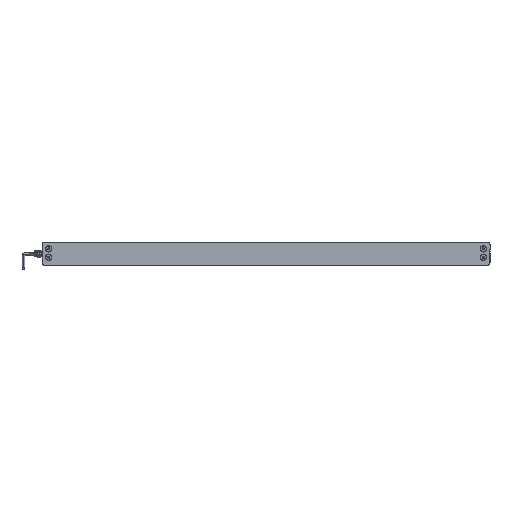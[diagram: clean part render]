
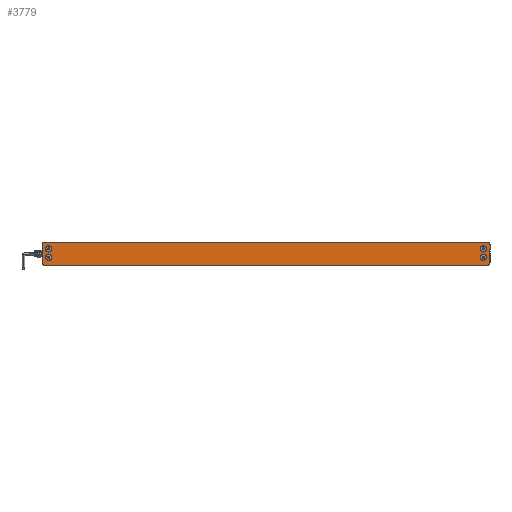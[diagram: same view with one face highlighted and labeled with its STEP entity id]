
A CAD part, left-side view. The second image highlights one B-rep face of the part: STEP entity #3779.
In plain terms, the highlighted planar face has unit normal (-1, 0, 0) as drawn and (0, 0, -1) by its records, which use the part's own axes.
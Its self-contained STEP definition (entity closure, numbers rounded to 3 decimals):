
#75 = ORIENTED_EDGE ( 'NONE', *, *, #13103, .F. ) ;
#145 = VERTEX_POINT ( 'NONE', #13456 ) ;
#169 = VERTEX_POINT ( 'NONE', #5914 ) ;
#189 = EDGE_CURVE ( 'NONE', #145, #5842, #14935, .T. ) ;
#563 = DIRECTION ( 'NONE',  ( -1., 0., 0. ) ) ;
#748 = CARTESIAN_POINT ( 'NONE',  ( -381.3, -6.3, 0. ) ) ;
#845 = EDGE_LOOP ( 'NONE', ( #10173, #9090, #14855, #75, #4623, #14987, #15805, #2340 ) ) ;
#932 = ORIENTED_EDGE ( 'NONE', *, *, #4648, .F. ) ;
#1097 = ORIENTED_EDGE ( 'NONE', *, *, #8424, .F. ) ;
#1159 = CARTESIAN_POINT ( 'NONE',  ( 389., 20., 0. ) ) ;
#1386 = DIRECTION ( 'NONE',  ( 0., 0., 1. ) ) ;
#1467 = CARTESIAN_POINT ( 'NONE',  ( 389., 16., 0. ) ) ;
#1659 = EDGE_LOOP ( 'NONE', ( #9781, #2215 ) ) ;
#1793 = ORIENTED_EDGE ( 'NONE', *, *, #6179, .F. ) ;
#1875 = CARTESIAN_POINT ( 'NONE',  ( -389., 16., 0. ) ) ;
#1910 = CIRCLE ( 'NONE', #6851, 5.6 ) ;
#1970 = VERTEX_POINT ( 'NONE', #9609 ) ;
#2056 = VERTEX_POINT ( 'NONE', #6857 ) ;
#2066 = CARTESIAN_POINT ( 'NONE',  ( 381.3, 8.5, 0. ) ) ;
#2137 = CARTESIAN_POINT ( 'NONE',  ( -386.9, 8.5, 0. ) ) ;
#2165 = DIRECTION ( 'NONE',  ( -1., 0., 0. ) ) ;
#2215 = ORIENTED_EDGE ( 'NONE', *, *, #15588, .F. ) ;
#2241 = LINE ( 'NONE', #10073, #16123 ) ;
#2285 = CARTESIAN_POINT ( 'NONE',  ( -389., 20., 0. ) ) ;
#2340 = ORIENTED_EDGE ( 'NONE', *, *, #12078, .F. ) ;
#2644 = EDGE_CURVE ( 'NONE', #169, #9333, #10695, .T. ) ;
#2745 = AXIS2_PLACEMENT_3D ( 'NONE', #16003, #15919, #9662 ) ;
#2781 = VERTEX_POINT ( 'NONE', #15353 ) ;
#2889 = AXIS2_PLACEMENT_3D ( 'NONE', #16267, #4248, #8204 ) ;
#3165 = CIRCLE ( 'NONE', #12550, 4. ) ;
#3711 = CIRCLE ( 'NONE', #2889, 4. ) ;
#3779 = ADVANCED_FACE ( 'NONE', ( #11961, #13099, #9102, #6511, #13019 ), #15619, .T. ) ;
#3870 = CIRCLE ( 'NONE', #5803, 5.6 ) ;
#4206 = EDGE_CURVE ( 'NONE', #16024, #11602, #3165, .T. ) ;
#4248 = DIRECTION ( 'NONE',  ( 0., 0., 1. ) ) ;
#4466 = CARTESIAN_POINT ( 'NONE',  ( -393., -16., 0. ) ) ;
#4468 = DIRECTION ( 'NONE',  ( 0., 0., -1. ) ) ;
#4623 = ORIENTED_EDGE ( 'NONE', *, *, #14043, .F. ) ;
#4648 = EDGE_CURVE ( 'NONE', #16746, #6600, #3870, .T. ) ;
#4968 = VERTEX_POINT ( 'NONE', #2137 ) ;
#4999 = CARTESIAN_POINT ( 'NONE',  ( 393., 16., 0. ) ) ;
#5143 = DIRECTION ( 'NONE',  ( 0., 0., -1. ) ) ;
#5191 = CARTESIAN_POINT ( 'NONE',  ( -375.7, 8.5, 0. ) ) ;
#5286 = CARTESIAN_POINT ( 'NONE',  ( -375.7, -6.3, 0. ) ) ;
#5364 = VECTOR ( 'NONE', #6420, 1000. ) ;
#5418 = EDGE_LOOP ( 'NONE', ( #1793, #932 ) ) ;
#5798 = EDGE_CURVE ( 'NONE', #4968, #7417, #8958, .T. ) ;
#5803 = AXIS2_PLACEMENT_3D ( 'NONE', #7471, #12604, #7312 ) ;
#5842 = VERTEX_POINT ( 'NONE', #7328 ) ;
#5914 = CARTESIAN_POINT ( 'NONE',  ( -386.9, -6.3, 0. ) ) ;
#6179 = EDGE_CURVE ( 'NONE', #6600, #16746, #15141, .T. ) ;
#6420 = DIRECTION ( 'NONE',  ( 0., 1., 0. ) ) ;
#6437 = LINE ( 'NONE', #7726, #9065 ) ;
#6511 = FACE_BOUND ( 'NONE', #1659, .T. ) ;
#6600 = VERTEX_POINT ( 'NONE', #7758 ) ;
#6778 = EDGE_CURVE ( 'NONE', #5842, #15479, #6437, .T. ) ;
#6851 = AXIS2_PLACEMENT_3D ( 'NONE', #8308, #14735, #13704 ) ;
#6857 = CARTESIAN_POINT ( 'NONE',  ( 393., -16., 0. ) ) ;
#6881 = ORIENTED_EDGE ( 'NONE', *, *, #14007, .F. ) ;
#7006 = AXIS2_PLACEMENT_3D ( 'NONE', #8373, #16190, #13685 ) ;
#7309 = DIRECTION ( 'NONE',  ( -1., 0., 0. ) ) ;
#7312 = DIRECTION ( 'NONE',  ( -1., 0., 0. ) ) ;
#7328 = CARTESIAN_POINT ( 'NONE',  ( -393., 16., 0. ) ) ;
#7417 = VERTEX_POINT ( 'NONE', #5191 ) ;
#7454 = EDGE_CURVE ( 'NONE', #9005, #2056, #11856, .T. ) ;
#7471 = CARTESIAN_POINT ( 'NONE',  ( 381.3, 8.5, 0. ) ) ;
#7726 = CARTESIAN_POINT ( 'NONE',  ( -393., -16., 0. ) ) ;
#7758 = CARTESIAN_POINT ( 'NONE',  ( 375.7, 8.5, 0. ) ) ;
#7960 = EDGE_CURVE ( 'NONE', #2781, #1970, #1910, .T. ) ;
#8204 = DIRECTION ( 'NONE',  ( -1., 0., 0. ) ) ;
#8265 = EDGE_LOOP ( 'NONE', ( #1097, #13305 ) ) ;
#8308 = CARTESIAN_POINT ( 'NONE',  ( 381.3, -6.3, 0. ) ) ;
#8373 = CARTESIAN_POINT ( 'NONE',  ( -381.3, 8.5, 0. ) ) ;
#8381 = AXIS2_PLACEMENT_3D ( 'NONE', #748, #11289, #15275 ) ;
#8424 = EDGE_CURVE ( 'NONE', #1970, #2781, #12410, .T. ) ;
#8958 = CIRCLE ( 'NONE', #16991, 5.6 ) ;
#9005 = VERTEX_POINT ( 'NONE', #13175 ) ;
#9065 = VECTOR ( 'NONE', #13027, 1000. ) ;
#9090 = ORIENTED_EDGE ( 'NONE', *, *, #13484, .F. ) ;
#9102 = FACE_BOUND ( 'NONE', #12325, .T. ) ;
#9333 = VERTEX_POINT ( 'NONE', #5286 ) ;
#9442 = LINE ( 'NONE', #11705, #5364 ) ;
#9609 = CARTESIAN_POINT ( 'NONE',  ( 375.7, -6.3, 0. ) ) ;
#9662 = DIRECTION ( 'NONE',  ( 1., 0., 0. ) ) ;
#9692 = DIRECTION ( 'NONE',  ( -1., 0., 0. ) ) ;
#9781 = ORIENTED_EDGE ( 'NONE', *, *, #2644, .F. ) ;
#9877 = AXIS2_PLACEMENT_3D ( 'NONE', #2066, #4468, #7309 ) ;
#10073 = CARTESIAN_POINT ( 'NONE',  ( -389., -20., 0. ) ) ;
#10173 = ORIENTED_EDGE ( 'NONE', *, *, #4206, .F. ) ;
#10287 = DIRECTION ( 'NONE',  ( -1., 0., 0. ) ) ;
#10695 = CIRCLE ( 'NONE', #14047, 5.6 ) ;
#10723 = AXIS2_PLACEMENT_3D ( 'NONE', #12393, #10918, #9692 ) ;
#10763 = AXIS2_PLACEMENT_3D ( 'NONE', #1875, #16386, #563 ) ;
#10918 = DIRECTION ( 'NONE',  ( 0., 0., -1. ) ) ;
#11044 = CARTESIAN_POINT ( 'NONE',  ( -381.3, 8.5, 0. ) ) ;
#11164 = CIRCLE ( 'NONE', #7006, 5.6 ) ;
#11289 = DIRECTION ( 'NONE',  ( 0., 0., -1. ) ) ;
#11602 = VERTEX_POINT ( 'NONE', #1159 ) ;
#11705 = CARTESIAN_POINT ( 'NONE',  ( 393., -16., 0. ) ) ;
#11856 = CIRCLE ( 'NONE', #2745, 4. ) ;
#11961 = FACE_BOUND ( 'NONE', #5418, .T. ) ;
#12078 = EDGE_CURVE ( 'NONE', #11602, #145, #12831, .T. ) ;
#12325 = EDGE_LOOP ( 'NONE', ( #12459, #6881 ) ) ;
#12393 = CARTESIAN_POINT ( 'NONE',  ( 381.3, -6.3, 0. ) ) ;
#12410 = CIRCLE ( 'NONE', #10723, 5.6 ) ;
#12459 = ORIENTED_EDGE ( 'NONE', *, *, #5798, .F. ) ;
#12510 = CARTESIAN_POINT ( 'NONE',  ( -389., -20., 0. ) ) ;
#12550 = AXIS2_PLACEMENT_3D ( 'NONE', #1467, #1386, #13318 ) ;
#12604 = DIRECTION ( 'NONE',  ( 0., 0., -1. ) ) ;
#12831 = LINE ( 'NONE', #2285, #16711 ) ;
#13019 = FACE_OUTER_BOUND ( 'NONE', #845, .T. ) ;
#13027 = DIRECTION ( 'NONE',  ( 0., -1., 0. ) ) ;
#13099 = FACE_BOUND ( 'NONE', #8265, .T. ) ;
#13103 = EDGE_CURVE ( 'NONE', #16240, #9005, #2241, .T. ) ;
#13120 = AXIS2_PLACEMENT_3D ( 'NONE', #16898, #5143, #17063 ) ;
#13175 = CARTESIAN_POINT ( 'NONE',  ( 389., -20., 0. ) ) ;
#13305 = ORIENTED_EDGE ( 'NONE', *, *, #7960, .F. ) ;
#13318 = DIRECTION ( 'NONE',  ( -1., 0., 0. ) ) ;
#13456 = CARTESIAN_POINT ( 'NONE',  ( -389., 20., 0. ) ) ;
#13484 = EDGE_CURVE ( 'NONE', #2056, #16024, #9442, .T. ) ;
#13538 = DIRECTION ( 'NONE',  ( -1., 0., 0. ) ) ;
#13666 = CIRCLE ( 'NONE', #8381, 5.6 ) ;
#13685 = DIRECTION ( 'NONE',  ( -1., 0., 0. ) ) ;
#13704 = DIRECTION ( 'NONE',  ( -1., 0., 0. ) ) ;
#13848 = DIRECTION ( 'NONE',  ( 0., 0., -1. ) ) ;
#14007 = EDGE_CURVE ( 'NONE', #7417, #4968, #11164, .T. ) ;
#14043 = EDGE_CURVE ( 'NONE', #15479, #16240, #3711, .T. ) ;
#14047 = AXIS2_PLACEMENT_3D ( 'NONE', #14162, #13848, #13538 ) ;
#14162 = CARTESIAN_POINT ( 'NONE',  ( -381.3, -6.3, 0. ) ) ;
#14735 = DIRECTION ( 'NONE',  ( 0., 0., -1. ) ) ;
#14855 = ORIENTED_EDGE ( 'NONE', *, *, #7454, .F. ) ;
#14935 = CIRCLE ( 'NONE', #10763, 4. ) ;
#14987 = ORIENTED_EDGE ( 'NONE', *, *, #6778, .F. ) ;
#15141 = CIRCLE ( 'NONE', #9877, 5.6 ) ;
#15275 = DIRECTION ( 'NONE',  ( -1., 0., 0. ) ) ;
#15353 = CARTESIAN_POINT ( 'NONE',  ( 386.9, -6.3, 0. ) ) ;
#15479 = VERTEX_POINT ( 'NONE', #4466 ) ;
#15539 = DIRECTION ( 'NONE',  ( 1., 0., 0. ) ) ;
#15588 = EDGE_CURVE ( 'NONE', #9333, #169, #13666, .T. ) ;
#15619 = PLANE ( 'NONE',  #13120 ) ;
#15805 = ORIENTED_EDGE ( 'NONE', *, *, #189, .F. ) ;
#15919 = DIRECTION ( 'NONE',  ( 0., 0., 1. ) ) ;
#16003 = CARTESIAN_POINT ( 'NONE',  ( 389., -16., 0. ) ) ;
#16024 = VERTEX_POINT ( 'NONE', #4999 ) ;
#16123 = VECTOR ( 'NONE', #15539, 1000. ) ;
#16190 = DIRECTION ( 'NONE',  ( 0., 0., -1. ) ) ;
#16240 = VERTEX_POINT ( 'NONE', #12510 ) ;
#16267 = CARTESIAN_POINT ( 'NONE',  ( -389., -16., 0. ) ) ;
#16386 = DIRECTION ( 'NONE',  ( 0., 0., 1. ) ) ;
#16671 = DIRECTION ( 'NONE',  ( 0., 0., -1. ) ) ;
#16711 = VECTOR ( 'NONE', #10287, 1000. ) ;
#16746 = VERTEX_POINT ( 'NONE', #17050 ) ;
#16898 = CARTESIAN_POINT ( 'NONE',  ( 389., 16., 0. ) ) ;
#16991 = AXIS2_PLACEMENT_3D ( 'NONE', #11044, #16671, #2165 ) ;
#17050 = CARTESIAN_POINT ( 'NONE',  ( 386.9, 8.5, 0. ) ) ;
#17063 = DIRECTION ( 'NONE',  ( -1., 0., 0. ) ) ;
